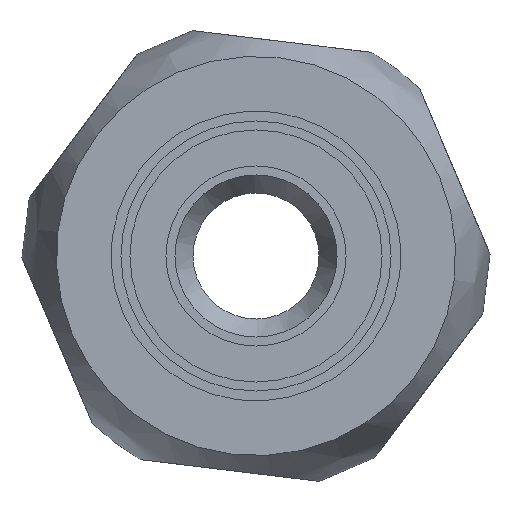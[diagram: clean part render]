
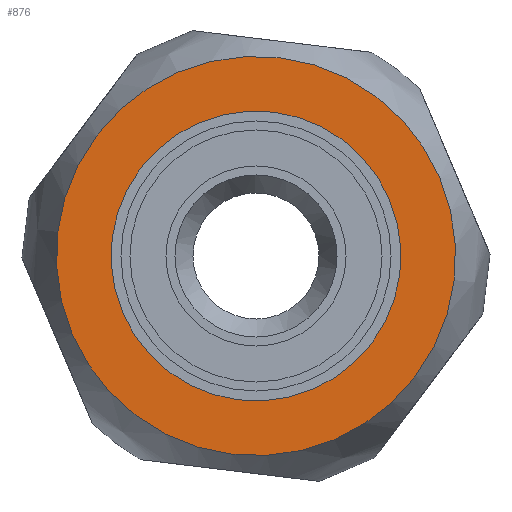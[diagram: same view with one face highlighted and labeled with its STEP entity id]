
A CAD part, left-side view. The second image highlights one B-rep face of the part: STEP entity #876.
In plain terms, the highlighted planar face has unit normal (-1, 0, 0).
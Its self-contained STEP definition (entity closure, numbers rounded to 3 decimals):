
#161=FACE_BOUND('',#273,.T.);
#209=FACE_OUTER_BOUND('',#272,.T.);
#272=EDGE_LOOP('',(#802,#803));
#273=EDGE_LOOP('',(#804,#805));
#340=CIRCLE('',#1078,11.089);
#341=CIRCLE('',#1079,11.089);
#344=CIRCLE('',#1084,8.05);
#345=CIRCLE('',#1085,8.05);
#431=VERTEX_POINT('',#1987);
#432=VERTEX_POINT('',#1991);
#435=VERTEX_POINT('',#2000);
#436=VERTEX_POINT('',#2002);
#553=EDGE_CURVE('',#431,#432,#340,.T.);
#554=EDGE_CURVE('',#432,#431,#341,.T.);
#558=EDGE_CURVE('',#436,#435,#344,.T.);
#559=EDGE_CURVE('',#435,#436,#345,.T.);
#802=ORIENTED_EDGE('',*,*,#554,.F.);
#803=ORIENTED_EDGE('',*,*,#553,.F.);
#804=ORIENTED_EDGE('',*,*,#558,.T.);
#805=ORIENTED_EDGE('',*,*,#559,.T.);
#828=PLANE('',#1086);
#876=ADVANCED_FACE('',(#209,#161),#828,.T.);
#1078=AXIS2_PLACEMENT_3D('',#1992,#1350,#1351);
#1079=AXIS2_PLACEMENT_3D('',#1993,#1352,#1353);
#1084=AXIS2_PLACEMENT_3D('',#2003,#1363,#1364);
#1085=AXIS2_PLACEMENT_3D('',#2004,#1365,#1366);
#1086=AXIS2_PLACEMENT_3D('',#2005,#1367,#1368);
#1350=DIRECTION('center_axis',(1.,0.,0.));
#1351=DIRECTION('ref_axis',(0.,1.,0.));
#1352=DIRECTION('center_axis',(1.,0.,0.));
#1353=DIRECTION('ref_axis',(0.,1.,0.));
#1363=DIRECTION('center_axis',(1.,0.,0.));
#1364=DIRECTION('ref_axis',(0.,1.,0.));
#1365=DIRECTION('center_axis',(1.,0.,0.));
#1366=DIRECTION('ref_axis',(0.,1.,0.));
#1367=DIRECTION('center_axis',(-1.,0.,0.));
#1368=DIRECTION('ref_axis',(0.,0.,1.));
#1987=CARTESIAN_POINT('',(0.,0.,11.089));
#1991=CARTESIAN_POINT('',(0.,11.089,0.));
#1992=CARTESIAN_POINT('Origin',(0.,0.,0.));
#1993=CARTESIAN_POINT('Origin',(0.,0.,0.));
#2000=CARTESIAN_POINT('',(0.,-8.05,0.));
#2002=CARTESIAN_POINT('',(0.,8.05,0.));
#2003=CARTESIAN_POINT('Origin',(0.,0.,0.));
#2004=CARTESIAN_POINT('Origin',(0.,0.,0.));
#2005=CARTESIAN_POINT('Origin',(0.,9.569,0.));
